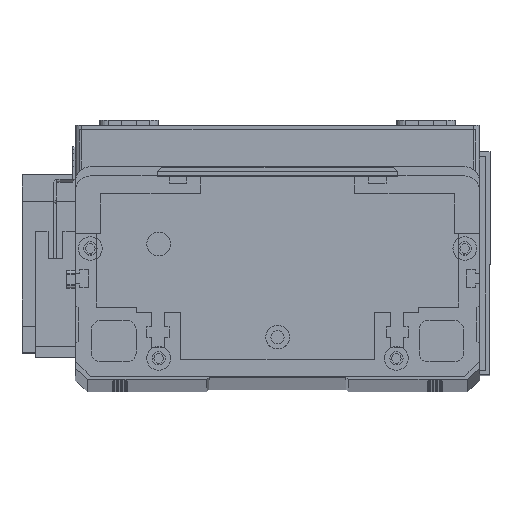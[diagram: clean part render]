
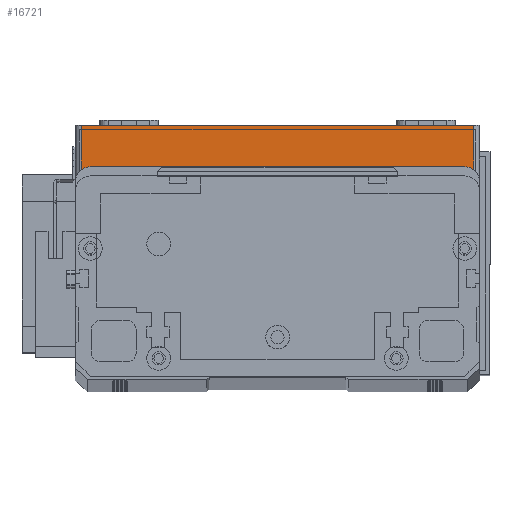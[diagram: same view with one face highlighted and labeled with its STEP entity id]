
A CAD part, top view. The second image highlights one B-rep face of the part: STEP entity #16721.
In plain terms, the highlighted planar face has unit normal (0, 0, 1) as drawn and (0, -1, 0) by its records, which use the part's own axes.
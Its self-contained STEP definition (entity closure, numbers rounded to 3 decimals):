
#148 = CARTESIAN_POINT ( 'NONE',  ( 0., 0., 0. ) ) ;
#828 = VERTEX_POINT ( 'NONE', #13088 ) ;
#1578 = VERTEX_POINT ( 'NONE', #29195 ) ;
#1795 = CARTESIAN_POINT ( 'NONE',  ( 2., 0., 19.5 ) ) ;
#2768 = FACE_OUTER_BOUND ( 'NONE', #26940, .T. ) ;
#4553 = DIRECTION ( 'NONE',  ( 1., 0., 0. ) ) ;
#4900 = DIRECTION ( 'NONE',  ( 0., 1., 0. ) ) ;
#6015 = VECTOR ( 'NONE', #21302, 1000. ) ;
#8482 = VECTOR ( 'NONE', #9049, 1000. ) ;
#8566 = VERTEX_POINT ( 'NONE', #13093 ) ;
#8836 = EDGE_CURVE ( 'NONE', #30422, #1578, #11304, .T. ) ;
#9049 = DIRECTION ( 'NONE',  ( 0., 0., 1. ) ) ;
#10553 = EDGE_CURVE ( 'NONE', #1578, #828, #12311, .T. ) ;
#11304 = LINE ( 'NONE', #21252, #29399 ) ;
#12122 = VECTOR ( 'NONE', #4553, 1000. ) ;
#12311 = LINE ( 'NONE', #148, #6015 ) ;
#12777 = ORIENTED_EDGE ( 'NONE', *, *, #28769, .F. ) ;
#13088 = CARTESIAN_POINT ( 'NONE',  ( 134., 0., 0. ) ) ;
#13093 = CARTESIAN_POINT ( 'NONE',  ( 134., 0., 19.5 ) ) ;
#14310 = CARTESIAN_POINT ( 'NONE',  ( 0., 0., 19.5 ) ) ;
#15490 = LINE ( 'NONE', #27848, #8482 ) ;
#15776 = ORIENTED_EDGE ( 'NONE', *, *, #10553, .T. ) ;
#16721 = ADVANCED_FACE ( 'NONE', ( #2768 ), #19085, .F. ) ;
#18770 = AXIS2_PLACEMENT_3D ( 'NONE', #14310, #4900, #21435 ) ;
#19085 = PLANE ( 'NONE',  #18770 ) ;
#21098 = CARTESIAN_POINT ( 'NONE',  ( 0., 0., 19.5 ) ) ;
#21252 = CARTESIAN_POINT ( 'NONE',  ( 2., 0., 19.5 ) ) ;
#21302 = DIRECTION ( 'NONE',  ( 1., 0., 0. ) ) ;
#21341 = DIRECTION ( 'NONE',  ( 0., 0., -1. ) ) ;
#21435 = DIRECTION ( 'NONE',  ( 0., 0., 1. ) ) ;
#22858 = EDGE_CURVE ( 'NONE', #828, #8566, #15490, .T. ) ;
#26078 = ORIENTED_EDGE ( 'NONE', *, *, #22858, .T. ) ;
#26940 = EDGE_LOOP ( 'NONE', ( #12777, #27689, #15776, #26078 ) ) ;
#27689 = ORIENTED_EDGE ( 'NONE', *, *, #8836, .T. ) ;
#27848 = CARTESIAN_POINT ( 'NONE',  ( 134., 0., 19.5 ) ) ;
#28769 = EDGE_CURVE ( 'NONE', #30422, #8566, #29478, .T. ) ;
#29195 = CARTESIAN_POINT ( 'NONE',  ( 2., 0., 0. ) ) ;
#29399 = VECTOR ( 'NONE', #21341, 1000. ) ;
#29478 = LINE ( 'NONE', #21098, #12122 ) ;
#30422 = VERTEX_POINT ( 'NONE', #1795 ) ;
